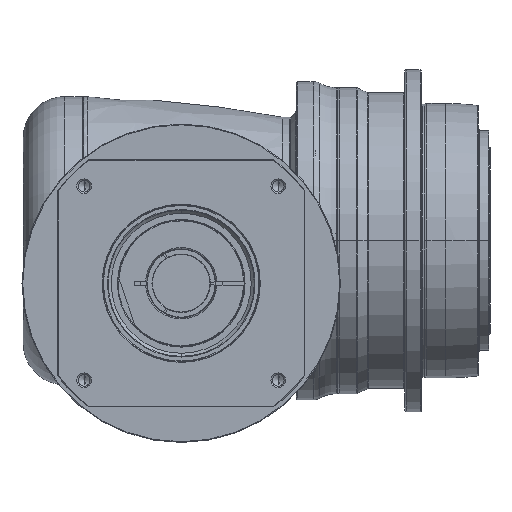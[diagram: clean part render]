
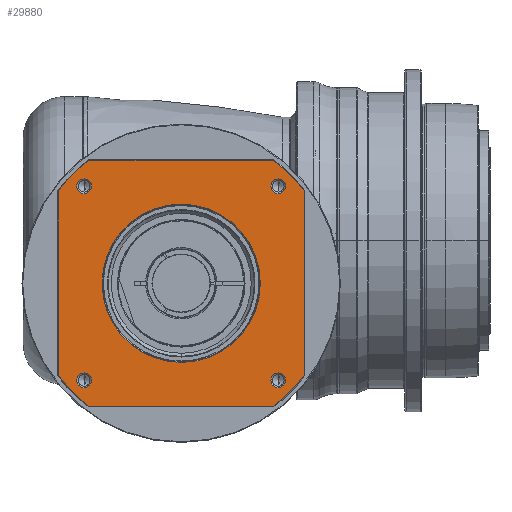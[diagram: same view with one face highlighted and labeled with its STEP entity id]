
A CAD part, front view. The second image highlights one B-rep face of the part: STEP entity #29880.
In plain terms, the highlighted planar face has unit normal (0, -1, 0) as drawn and (0, 0, 1) by its records, which use the part's own axes.
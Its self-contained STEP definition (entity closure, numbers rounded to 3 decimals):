
#28613=DIRECTION('',(1.,0.,0.));
#28614=VECTOR('',#28613,134.666);
#28615=CARTESIAN_POINT('',(-67.333,-89.5,41.));
#28616=LINE('',#28615,#28614);
#28626=CARTESIAN_POINT('',(0.,0.,
41.));
#28627=DIRECTION('',(0.,0.,-1.));
#28628=DIRECTION('',(0.,-1.,0.));
#28629=AXIS2_PLACEMENT_3D('',#28626,#28627,#28628);
#28631=CARTESIAN_POINT('',(0.,0.,
41.));
#28632=DIRECTION('',(0.,0.,-1.));
#28633=DIRECTION('',(0.,1.,0.));
#28634=AXIS2_PLACEMENT_3D('',#28631,#28632,#28633);
#28636=CARTESIAN_POINT('',(0.,0.,41.));
#28637=DIRECTION('',(0.,0.,1.));
#28638=DIRECTION('',(-0.799,-0.601,0.));
#28639=AXIS2_PLACEMENT_3D('',#28636,#28637,#28638);
#28651=DIRECTION('',(0.,-1.,0.));
#28652=VECTOR('',#28651,134.666);
#28653=CARTESIAN_POINT('',(-89.5,67.333,41.));
#28654=LINE('',#28653,#28652);
#28664=CARTESIAN_POINT('',(0.,0.,41.));
#28665=DIRECTION('',(0.,0.,1.));
#28666=DIRECTION('',(-0.601,0.799,0.));
#28667=AXIS2_PLACEMENT_3D('',#28664,#28665,#28666);
#28692=DIRECTION('',(-1.,0.,0.));
#28693=VECTOR('',#28692,134.666);
#28694=CARTESIAN_POINT('',(67.333,89.5,41.));
#28695=LINE('',#28694,#28693);
#28700=CARTESIAN_POINT('',(0.,0.,41.));
#28701=DIRECTION('',(0.,0.,1.));
#28702=DIRECTION('',(0.799,0.601,0.));
#28703=AXIS2_PLACEMENT_3D('',#28700,#28701,#28702);
#28715=DIRECTION('',(0.,1.,0.));
#28716=VECTOR('',#28715,134.666);
#28717=CARTESIAN_POINT('',(89.5,-67.333,41.));
#28718=LINE('',#28717,#28716);
#28820=CARTESIAN_POINT('',(0.,0.,41.));
#28821=DIRECTION('',(0.,0.,1.));
#28822=DIRECTION('',(0.601,-0.799,0.));
#28823=AXIS2_PLACEMENT_3D('',#28820,#28821,#28822);
#29097=CARTESIAN_POINT('',(-70.711,70.711,41.));
#29098=DIRECTION('',(0.,0.,1.));
#29099=DIRECTION('',(-1.,0.,0.));
#29100=AXIS2_PLACEMENT_3D('',#29097,#29098,#29099);
#29115=CARTESIAN_POINT('',(-70.711,70.711,41.));
#29116=DIRECTION('',(0.,0.,1.));
#29117=DIRECTION('',(1.,0.,0.));
#29118=AXIS2_PLACEMENT_3D('',#29115,#29116,#29117);
#29151=CARTESIAN_POINT('',(70.711,70.711,41.));
#29152=DIRECTION('',(0.,0.,1.));
#29153=DIRECTION('',(-1.,0.,0.));
#29154=AXIS2_PLACEMENT_3D('',#29151,#29152,#29153);
#29169=CARTESIAN_POINT('',(70.711,70.711,41.));
#29170=DIRECTION('',(0.,0.,1.));
#29171=DIRECTION('',(1.,0.,0.));
#29172=AXIS2_PLACEMENT_3D('',#29169,#29170,#29171);
#29205=CARTESIAN_POINT('',(70.711,-70.711,41.));
#29206=DIRECTION('',(0.,0.,1.));
#29207=DIRECTION('',(-1.,0.,0.));
#29208=AXIS2_PLACEMENT_3D('',#29205,#29206,#29207);
#29223=CARTESIAN_POINT('',(70.711,-70.711,41.));
#29224=DIRECTION('',(0.,0.,1.));
#29225=DIRECTION('',(1.,0.,0.));
#29226=AXIS2_PLACEMENT_3D('',#29223,#29224,#29225);
#29259=CARTESIAN_POINT('',(-70.711,-70.711,41.));
#29260=DIRECTION('',(0.,0.,1.));
#29261=DIRECTION('',(-1.,0.,0.));
#29262=AXIS2_PLACEMENT_3D('',#29259,#29260,#29261);
#29277=CARTESIAN_POINT('',(-70.711,-70.711,41.));
#29278=DIRECTION('',(0.,0.,1.));
#29279=DIRECTION('',(1.,0.,0.));
#29280=AXIS2_PLACEMENT_3D('',#29277,#29278,#29279);
#29321=CARTESIAN_POINT('',(89.5,-67.333,41.));
#29322=CARTESIAN_POINT('',(89.5,67.333,41.));
#29323=VERTEX_POINT('',#29321);
#29324=VERTEX_POINT('',#29322);
#29329=CARTESIAN_POINT('',(67.333,-89.5,41.));
#29330=VERTEX_POINT('',#29329);
#29333=CARTESIAN_POINT('',(-67.333,-89.5,41.));
#29334=VERTEX_POINT('',#29333);
#29337=CARTESIAN_POINT('',(-89.5,-67.333,41.));
#29338=VERTEX_POINT('',#29337);
#29341=CARTESIAN_POINT('',(-89.5,67.333,41.));
#29342=VERTEX_POINT('',#29341);
#29345=CARTESIAN_POINT('',(-67.333,89.5,41.));
#29346=VERTEX_POINT('',#29345);
#29349=CARTESIAN_POINT('',(67.333,89.5,41.));
#29350=VERTEX_POINT('',#29349);
#29399=CARTESIAN_POINT('',(-76.061,70.711,41.));
#29400=CARTESIAN_POINT('',(-65.361,70.711,41.));
#29401=VERTEX_POINT('',#29399);
#29402=VERTEX_POINT('',#29400);
#29433=CARTESIAN_POINT('',(76.061,70.711,41.));
#29434=CARTESIAN_POINT('',(65.361,70.711,41.));
#29435=VERTEX_POINT('',#29433);
#29436=VERTEX_POINT('',#29434);
#29441=CARTESIAN_POINT('',(76.061,-70.711,41.));
#29442=CARTESIAN_POINT('',(65.361,-70.711,41.));
#29443=VERTEX_POINT('',#29441);
#29444=VERTEX_POINT('',#29442);
#29449=CARTESIAN_POINT('',(-65.361,-70.711,41.));
#29450=CARTESIAN_POINT('',(-76.061,-70.711,41.));
#29451=VERTEX_POINT('',#29449);
#29452=VERTEX_POINT('',#29450);
#29457=CARTESIAN_POINT('',(0.,-57.65,41.));
#29458=CARTESIAN_POINT('',(0.,57.65,41.));
#29459=VERTEX_POINT('',#29457);
#29460=VERTEX_POINT('',#29458);
#29828=CARTESIAN_POINT('',(0.,0.,41.));
#29829=DIRECTION('',(0.,0.,1.));
#29830=DIRECTION('',(1.,0.,0.));
#29831=AXIS2_PLACEMENT_3D('',#29828,#29829,#29830);
#29832=PLANE('',#29831);
#29834=ORIENTED_EDGE('',*,*,#29833,.F.);
#29836=ORIENTED_EDGE('',*,*,#29835,.F.);
#29838=ORIENTED_EDGE('',*,*,#29837,.F.);
#29840=ORIENTED_EDGE('',*,*,#29839,.F.);
#29842=ORIENTED_EDGE('',*,*,#29841,.F.);
#29844=ORIENTED_EDGE('',*,*,#29843,.F.);
#29846=ORIENTED_EDGE('',*,*,#29845,.F.);
#29847=ORIENTED_EDGE('',*,*,#29818,.F.);
#29848=EDGE_LOOP('',(#29834,#29836,#29838,#29840,#29842,#29844,#29846,#29847));
#29849=FACE_OUTER_BOUND('',#29848,.F.);
#29851=ORIENTED_EDGE('',*,*,#29850,.F.);
#29853=ORIENTED_EDGE('',*,*,#29852,.F.);
#29854=EDGE_LOOP('',(#29851,#29853));
#29855=FACE_BOUND('',#29854,.F.);
#29857=ORIENTED_EDGE('',*,*,#29856,.T.);
#29859=ORIENTED_EDGE('',*,*,#29858,.T.);
#29860=EDGE_LOOP('',(#29857,#29859));
#29861=FACE_BOUND('',#29860,.F.);
#29863=ORIENTED_EDGE('',*,*,#29862,.T.);
#29865=ORIENTED_EDGE('',*,*,#29864,.T.);
#29866=EDGE_LOOP('',(#29863,#29865));
#29867=FACE_BOUND('',#29866,.F.);
#29869=ORIENTED_EDGE('',*,*,#29868,.T.);
#29871=ORIENTED_EDGE('',*,*,#29870,.T.);
#29872=EDGE_LOOP('',(#29869,#29871));
#29873=FACE_BOUND('',#29872,.F.);
#29875=ORIENTED_EDGE('',*,*,#29874,.T.);
#29877=ORIENTED_EDGE('',*,*,#29876,.T.);
#29878=EDGE_LOOP('',(#29875,#29877));
#29879=FACE_BOUND('',#29878,.F.);
#29880=ADVANCED_FACE('',(#29849,#29855,#29861,#29867,#29873,#29879),#29832,.T.);
#28630=CIRCLE('',#28629,57.65);
#28635=CIRCLE('',#28634,57.65);
#28640=CIRCLE('',#28639,112.);
#28668=CIRCLE('',#28667,112.);
#28704=CIRCLE('',#28703,112.);
#28824=CIRCLE('',#28823,112.);
#29101=CIRCLE('',#29100,5.35);
#29119=CIRCLE('',#29118,5.35);
#29155=CIRCLE('',#29154,5.35);
#29173=CIRCLE('',#29172,5.35);
#29209=CIRCLE('',#29208,5.35);
#29227=CIRCLE('',#29226,5.35);
#29263=CIRCLE('',#29262,5.35);
#29281=CIRCLE('',#29280,5.35);
#29818=EDGE_CURVE('',#29334,#29330,#28616,.T.);
#29833=EDGE_CURVE('',#29338,#29334,#28640,.T.);
#29835=EDGE_CURVE('',#29342,#29338,#28654,.T.);
#29837=EDGE_CURVE('',#29346,#29342,#28668,.T.);
#29839=EDGE_CURVE('',#29350,#29346,#28695,.T.);
#29841=EDGE_CURVE('',#29324,#29350,#28704,.T.);
#29843=EDGE_CURVE('',#29323,#29324,#28718,.T.);
#29845=EDGE_CURVE('',#29330,#29323,#28824,.T.);
#29850=EDGE_CURVE('',#29459,#29460,#28630,.T.);
#29852=EDGE_CURVE('',#29460,#29459,#28635,.T.);
#29856=EDGE_CURVE('',#29401,#29402,#29101,.T.);
#29858=EDGE_CURVE('',#29402,#29401,#29119,.T.);
#29862=EDGE_CURVE('',#29436,#29435,#29155,.T.);
#29864=EDGE_CURVE('',#29435,#29436,#29173,.T.);
#29868=EDGE_CURVE('',#29444,#29443,#29209,.T.);
#29870=EDGE_CURVE('',#29443,#29444,#29227,.T.);
#29874=EDGE_CURVE('',#29452,#29451,#29263,.T.);
#29876=EDGE_CURVE('',#29451,#29452,#29281,.T.);
